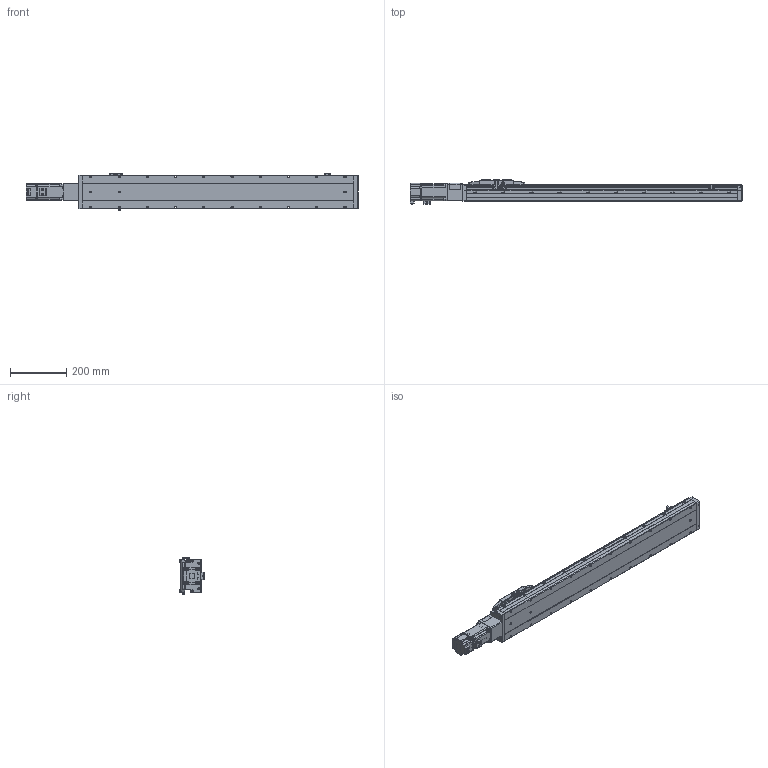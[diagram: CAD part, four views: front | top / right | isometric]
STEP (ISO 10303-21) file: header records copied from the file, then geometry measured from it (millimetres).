
FILE_DESCRIPTION (( 'STEP AP214' ), '1' );
FILE_NAME ('CTH12-L10-S750-BC-C40（简）.STEP', '2023-02-06T05:26:34', ( '' ), ( '' ), 'SwSTEP 2.0', 'SolidWorks 2018', '' );
FILE_SCHEMA (( 'AUTOMOTIVE_DESIGN' ));
Length unit declared in the file: millimetre
Products named in the file (23): CTH12; CTH12-BL_body_4; 蚐郲; CTH12_body_3; CTH12萇儂釱; CTH12-BC-06-T40（cth8-bc-06-t40-G）_1; CTH12覜茼え; CTH12賑怢ㄗ潠ㄘ; M5蹟隊; CTH12-L10-S750-BC-C40（简）; 嫖萇羲壽郪磁2; 内六角圆柱头螺钉M3-2; 嫖萇羲壽郪磁1333; 内六角圆柱头螺钉M3; PM-Y45; 湮賑怢  裔赽-1(CTH12)賑怢; 内六角圆柱头螺钉M3-1; 400W萇儂; CTH12底座-L961简（750行程）; CTH12-BC-03_1; CTH嫖萇羲壽假蚾啣; CTH12賑怢郪磁; hex nuts, style 1-grades ab gb_GB_FASTENER_NUT_SNAB1 M3-N
Assembly tree (43 placements, depth 4):
  CTH12-L10-S750-BC-C40（简）
    CTH12底座-L961简（750行程）
    蚐郲  x2
    CTH12-BL_body_4
    CTH12_body_3
    CTH12賑怢郪磁
      CTH12
        湮賑怢  裔赽-1(CTH12)賑怢
        CTH12賑怢ㄗ潠ㄘ
    CTH12覜茼え
    嫖萇羲壽郪磁2
      CTH嫖萇羲壽假蚾啣
      PM-Y45
      内六角圆柱头螺钉M3-1  x2
      内六角圆柱头螺钉M3-2  x2
      hex nuts, style 1-grades ab gb_GB_FASTENER_NUT_SNAB1 M3-N  x2
    CTH12萇儂釱
      CTH12-BC-03_1
      CTH12-BC-06-T40（cth8-bc-06-t40-G）_1
    嫖萇羲壽郪磁1333  x2
      CTH嫖萇羲壽假蚾啣
      PM-Y45
      内六角圆柱头螺钉M3-2
      内六角圆柱头螺钉M3-1
      hex nuts, style 1-grades ab gb_GB_FASTENER_NUT_SNAB1 M3-N
    内六角圆柱头螺钉M3  x6
    400W萇儂
    M5蹟隊  x4
Bounding box: 1175.8 x 86.5 x 131.52 mm (x, y, z)
Volume: 6771401.4 mm3; surface area: 651749.9 mm2
Topology: 45 solids, 47 shells, 2954 faces, 7330 edges, 4601 vertices
Faces by surface type: plane 1456, cylinder 887, cone 347, bspline 136, torus 124, sphere 4
Entity records: 91840 total; most frequent: CARTESIAN_POINT 31358, ORIENTED_EDGE 11762, DIRECTION 11476, EDGE_CURVE 5881, AXIS2_PLACEMENT_3D 4029, VERTEX_POINT 3705, LINE 3418, VECTOR 3418
